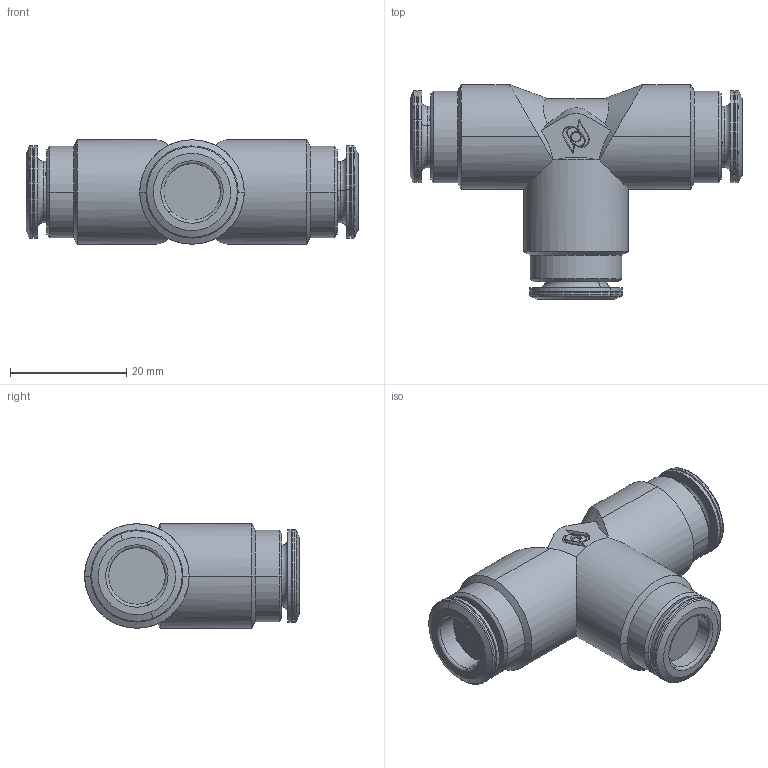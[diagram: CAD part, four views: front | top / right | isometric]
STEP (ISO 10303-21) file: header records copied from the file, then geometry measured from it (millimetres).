
FILE_DESCRIPTION (( 'STEP AP214' ), '1' );
FILE_NAME ('84230H0005.STEP', '2019-12-11T11:01:11', ( '' ), ( '' ), 'SwSTEP 2.0', 'SolidWorks 2016', '' );
FILE_SCHEMA (( 'AUTOMOTIVE_DESIGN' ));
Length unit declared in the file: millimetre
Products named in the file (1): 84230H0005
Bounding box: 57.22 x 37 x 18 mm (x, y, z)
Volume: 16189.9 mm3; surface area: 5450.4 mm2
Topology: 1 solids, 3 shells, 170 faces, 443 edges, 284 vertices
Faces by surface type: plane 63, cone 46, cylinder 39, torus 18, bspline 4
Entity records: 8390 total; most frequent: CARTESIAN_POINT 2352, ORIENTED_EDGE 886, DIRECTION 884, EDGE_CURVE 443, AXIS2_PLACEMENT_3D 351, VERTEX_POINT 284, EDGE_LOOP 191, CIRCLE 184
